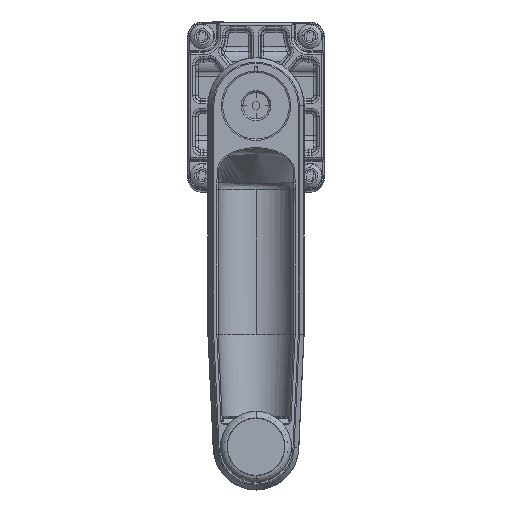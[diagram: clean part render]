
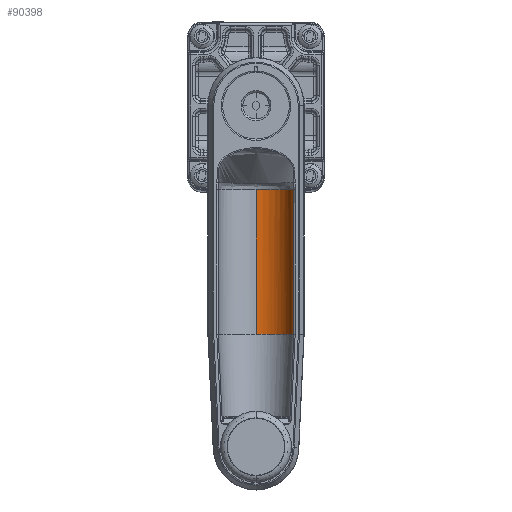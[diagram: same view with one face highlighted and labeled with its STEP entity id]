
A CAD part, top view. The second image highlights one B-rep face of the part: STEP entity #90398.
In plain terms, the highlighted cylindrical face has radius 14.25 mm (diameter 28.5 mm), a partial arc.
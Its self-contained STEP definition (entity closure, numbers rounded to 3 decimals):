
#132 = ORIENTED_EDGE ( 'NONE', *, *, #112395, .F. ) ;
#174 = DIRECTION ( 'NONE',  ( 0., 1., 0. ) ) ;
#312 = CARTESIAN_POINT ( 'NONE',  ( 7.027, -6.882, -33.132 ) ) ;
#1742 = LINE ( 'NONE', #60456, #20231 ) ;
#3611 = CARTESIAN_POINT ( 'NONE',  ( -3.237, -6.882, -40.557 ) ) ;
#5411 = CARTESIAN_POINT ( 'NONE',  ( -5.569, 48.118, -40.717 ) ) ;
#5655 = DIRECTION ( 'NONE',  ( 0., -1., 0. ) ) ;
#6068 = CARTESIAN_POINT ( 'NONE',  ( -0.928, -6.882, -39.947 ) ) ;
#6371 = CARTESIAN_POINT ( 'NONE',  ( -4.657, -6.882, -40.695 ) ) ;
#8585 = CARTESIAN_POINT ( 'NONE',  ( 8.245, -6.882, -29.972 ) ) ;
#8815 = EDGE_CURVE ( 'NONE', #63994, #107616, #109441, .T. ) ;
#9422 = VERTEX_POINT ( 'NONE', #29860 ) ;
#10694 = DIRECTION ( 'NONE',  ( 0., -1., 0. ) ) ;
#11328 = ORIENTED_EDGE ( 'NONE', *, *, #70523, .F. ) ;
#14444 = ORIENTED_EDGE ( 'NONE', *, *, #95614, .F. ) ;
#14951 = CARTESIAN_POINT ( 'NONE',  ( -4.203, -6.882, -40.652 ) ) ;
#16544 = CARTESIAN_POINT ( 'NONE',  ( 7.639, -6.882, -31.879 ) ) ;
#18171 = ORIENTED_EDGE ( 'NONE', *, *, #47727, .F. ) ;
#18260 = ORIENTED_EDGE ( 'NONE', *, *, #102185, .F. ) ;
#18455 = CARTESIAN_POINT ( 'NONE',  ( -5.569, -6.882, -40.717 ) ) ;
#19573 = VERTEX_POINT ( 'NONE', #69402 ) ;
#19854 = DIRECTION ( 'NONE',  ( 0., 0., -1. ) ) ;
#20231 = VECTOR ( 'NONE', #5655, 1000. ) ;
#23116 = CARTESIAN_POINT ( 'NONE',  ( 8.145, -6.882, -30.342 ) ) ;
#23512 = ORIENTED_EDGE ( 'NONE', *, *, #93434, .F. ) ;
#23543 = VERTEX_POINT ( 'NONE', #18455 ) ;
#24657 = CARTESIAN_POINT ( 'NONE',  ( -5.113, -6.882, -40.717 ) ) ;
#25690 = CARTESIAN_POINT ( 'NONE',  ( 2.369, -6.882, -38.385 ) ) ;
#25698 = CARTESIAN_POINT ( 'NONE',  ( 7.027, -6.882, -33.132 ) ) ;
#26534 = CARTESIAN_POINT ( 'NONE',  ( 8.691, -6.882, -26.467 ) ) ;
#29860 = CARTESIAN_POINT ( 'NONE',  ( 8.245, -6.882, -29.972 ) ) ;
#30713 = CARTESIAN_POINT ( 'NONE',  ( -1.351, -6.882, -40.079 ) ) ;
#31853 = ORIENTED_EDGE ( 'NONE', *, *, #52756, .T. ) ;
#32378 = VERTEX_POINT ( 'NONE', #77391 ) ;
#33188 = CARTESIAN_POINT ( 'NONE',  ( 0.718, -6.882, -39.263 ) ) ;
#34181 = B_SPLINE_CURVE_WITH_KNOTS ( 'NONE', 3,
 ( #97244, #33188, #60850, #6068, #70075 ),
 .UNSPECIFIED., .F., .F.,
 ( 4, 1, 4 ),
 ( 0.345, 0.375, 0.405 ),
 .UNSPECIFIED. ) ;
#34543 = CARTESIAN_POINT ( 'NONE',  ( 7.953, -6.882, -30.992 ) ) ;
#38232 = EDGE_CURVE ( 'NONE', #92243, #32378, #94438, .T. ) ;
#39922 = CARTESIAN_POINT ( 'NONE',  ( -2.279, -6.882, -40.365 ) ) ;
#41097 = CARTESIAN_POINT ( 'NONE',  ( 8.681, 48.118, -26.467 ) ) ;
#42693 = CARTESIAN_POINT ( 'NONE',  ( -4.203, -6.882, -40.652 ) ) ;
#45506 = VECTOR ( 'NONE', #59931, 1000. ) ;
#46318 = B_SPLINE_CURVE_WITH_KNOTS ( 'NONE', 3,
 ( #114397, #68839, #23116, #87226 ),
 .UNSPECIFIED., .F., .F.,
 ( 4, 4 ),
 ( 0.079, 0.092 ),
 .UNSPECIFIED. ) ;
#47727 = EDGE_CURVE ( 'NONE', #108181, #9422, #82628, .T. ) ;
#50662 = FACE_OUTER_BOUND ( 'NONE', #85851, .T. ) ;
#52756 = EDGE_CURVE ( 'NONE', #107616, #23543, #1742, .T. ) ;
#52952 = CARTESIAN_POINT ( 'NONE',  ( 7.027, -6.882, -33.132 ) ) ;
#52963 = CARTESIAN_POINT ( 'NONE',  ( 8.092, -6.882, -30.526 ) ) ;
#54161 = CARTESIAN_POINT ( 'NONE',  ( 8.691, -6.882, -26.467 ) ) ;
#54912 = CARTESIAN_POINT ( 'NONE',  ( -5.569, 48.118, -26.467 ) ) ;
#56993 = B_SPLINE_CURVE_WITH_KNOTS ( 'NONE', 3,
 ( #42693, #6371, #24657, #88777 ),
 .UNSPECIFIED., .F., .F.,
 ( 4, 4 ),
 ( 0.47, 0.5 ),
 .UNSPECIFIED. ) ;
#59931 = DIRECTION ( 'NONE',  ( 0., -1., 0. ) ) ;
#60456 = CARTESIAN_POINT ( 'NONE',  ( -5.569, 48.118, -40.717 ) ) ;
#60850 = CARTESIAN_POINT ( 'NONE',  ( -0.088, -6.882, -39.644 ) ) ;
#63432 = CARTESIAN_POINT ( 'NONE',  ( 8.534, -6.882, -28.826 ) ) ;
#63994 = VERTEX_POINT ( 'NONE', #68723 ) ;
#64126 = DIRECTION ( 'NONE',  ( 0., 0., 1. ) ) ;
#67584 = CARTESIAN_POINT ( 'NONE',  ( -4.203, -6.882, -40.652 ) ) ;
#67794 = VERTEX_POINT ( 'NONE', #14951 ) ;
#68723 = CARTESIAN_POINT ( 'NONE',  ( 8.681, 48.118, -26.467 ) ) ;
#68839 = CARTESIAN_POINT ( 'NONE',  ( 8.196, -6.882, -30.157 ) ) ;
#69402 = CARTESIAN_POINT ( 'NONE',  ( 8.092, -6.882, -30.526 ) ) ;
#70075 = CARTESIAN_POINT ( 'NONE',  ( -1.351, -6.882, -40.079 ) ) ;
#70388 = AXIS2_PLACEMENT_3D ( 'NONE', #83903, #10694, #19854 ) ;
#70523 = EDGE_CURVE ( 'NONE', #32378, #92441, #34181, .T. ) ;
#71405 = CARTESIAN_POINT ( 'NONE',  ( 6.367, -6.882, -34.377 ) ) ;
#72052 = CARTESIAN_POINT ( 'NONE',  ( 8.691, -6.882, -26.467 ) ) ;
#75927 = ORIENTED_EDGE ( 'NONE', *, *, #84839, .F. ) ;
#77391 = CARTESIAN_POINT ( 'NONE',  ( 1.114, -6.882, -39.053 ) ) ;
#80570 = CARTESIAN_POINT ( 'NONE',  ( 4.672, -6.882, -36.681 ) ) ;
#80579 = CARTESIAN_POINT ( 'NONE',  ( 7.239, -6.882, -32.731 ) ) ;
#81407 = CARTESIAN_POINT ( 'NONE',  ( 8.691, -6.882, -26.467 ) ) ;
#82628 = B_SPLINE_CURVE_WITH_KNOTS ( 'NONE', 3,
 ( #26534, #81407, #54161, #118187, #63432, #8585 ),
 .UNSPECIFIED., .F., .F.,
 ( 4, 2, 4 ),
 ( 0., 0., 0.079 ),
 .UNSPECIFIED. ) ;
#83903 = CARTESIAN_POINT ( 'NONE',  ( -5.569, 48.118, -26.467 ) ) ;
#84838 = ORIENTED_EDGE ( 'NONE', *, *, #8815, .T. ) ;
#84839 = EDGE_CURVE ( 'NONE', #19573, #92243, #109720, .T. ) ;
#85851 = EDGE_LOOP ( 'NONE', ( #84838, #31853, #14444, #23512, #11328, #104403, #75927, #18260, #18171, #132 ) ) ;
#87226 = CARTESIAN_POINT ( 'NONE',  ( 8.092, -6.882, -30.526 ) ) ;
#87791 = B_SPLINE_CURVE_WITH_KNOTS ( 'NONE', 3,
 ( #30713, #39922, #3611, #67584 ),
 .UNSPECIFIED., .F., .F.,
 ( 4, 4 ),
 ( 0.405, 0.47 ),
 .UNSPECIFIED. ) ;
#88777 = CARTESIAN_POINT ( 'NONE',  ( -5.569, -6.882, -40.717 ) ) ;
#89792 = CARTESIAN_POINT ( 'NONE',  ( 1.114, -6.882, -39.053 ) ) ;
#90398 = ADVANCED_FACE ( 'NONE', ( #50662 ), #96501, .F. ) ;
#92243 = VERTEX_POINT ( 'NONE', #312 ) ;
#92441 = VERTEX_POINT ( 'NONE', #113009 ) ;
#93434 = EDGE_CURVE ( 'NONE', #92441, #67794, #87791, .T. ) ;
#94438 = B_SPLINE_CURVE_WITH_KNOTS ( 'NONE', 3,
 ( #52952, #71405, #80570, #25690, #89792 ),
 .UNSPECIFIED., .F., .F.,
 ( 4, 1, 4 ),
 ( 0.155, 0.25, 0.345 ),
 .UNSPECIFIED. ) ;
#95614 = EDGE_CURVE ( 'NONE', #67794, #23543, #56993, .T. ) ;
#96501 = CYLINDRICAL_SURFACE ( 'NONE', #70388, 14.25 ) ;
#97099 = LINE ( 'NONE', #41097, #45506 ) ;
#97244 = CARTESIAN_POINT ( 'NONE',  ( 1.114, -6.882, -39.053 ) ) ;
#102185 = EDGE_CURVE ( 'NONE', #9422, #19573, #46318, .T. ) ;
#104403 = ORIENTED_EDGE ( 'NONE', *, *, #38232, .F. ) ;
#107616 = VERTEX_POINT ( 'NONE', #5411 ) ;
#108181 = VERTEX_POINT ( 'NONE', #72052 ) ;
#109441 = CIRCLE ( 'NONE', #116127, 14.25 ) ;
#109720 = B_SPLINE_CURVE_WITH_KNOTS ( 'NONE', 3,
 ( #52963, #34543, #16544, #80579, #25698 ),
 .UNSPECIFIED., .F., .F.,
 ( 4, 1, 4 ),
 ( 0.092, 0.125, 0.155 ),
 .UNSPECIFIED. ) ;
#112395 = EDGE_CURVE ( 'NONE', #63994, #108181, #97099, .T. ) ;
#113009 = CARTESIAN_POINT ( 'NONE',  ( -1.351, -6.882, -40.079 ) ) ;
#114397 = CARTESIAN_POINT ( 'NONE',  ( 8.245, -6.882, -29.972 ) ) ;
#116127 = AXIS2_PLACEMENT_3D ( 'NONE', #54912, #174, #64126 ) ;
#118187 = CARTESIAN_POINT ( 'NONE',  ( 8.685, -6.882, -27.645 ) ) ;
